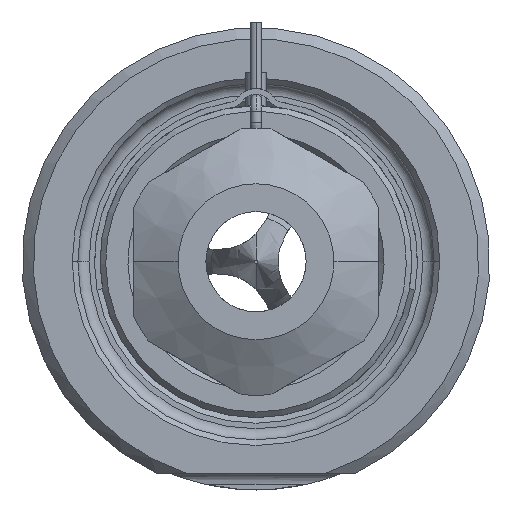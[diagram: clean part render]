
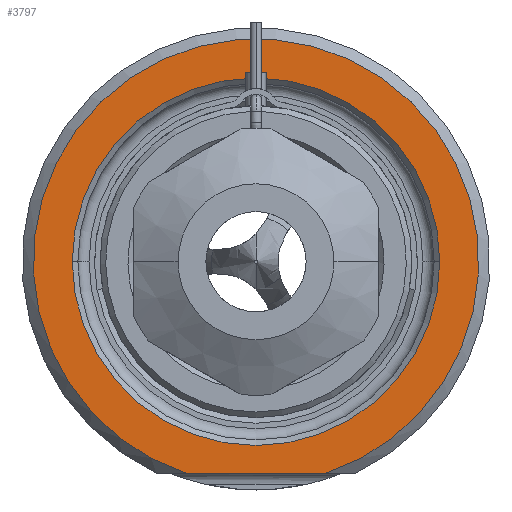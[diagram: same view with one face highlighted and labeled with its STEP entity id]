
A CAD part, front view. The second image highlights one B-rep face of the part: STEP entity #3797.
In plain terms, the highlighted planar face has unit normal (0, -1, 0).
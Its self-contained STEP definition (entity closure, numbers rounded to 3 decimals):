
#1=DIRECTION('',(1.,0.,0.));
#2=VECTOR('',#1,12.49);
#3=CARTESIAN_POINT('',(-6.245,0.,-19.));
#4=LINE('',#3,#2);
#5=CARTESIAN_POINT('',(0.,0.,0.));
#6=DIRECTION('',(0.,1.,0.));
#7=DIRECTION('',(-1.,0.,0.));
#8=AXIS2_PLACEMENT_3D('',#5,#6,#7);
#10=CARTESIAN_POINT('',(0.,0.,0.));
#11=DIRECTION('',(0.,1.,0.));
#12=DIRECTION('',(1.,0.,0.));
#13=AXIS2_PLACEMENT_3D('',#10,#11,#12);
#119=CARTESIAN_POINT('',(0.,0.,0.));
#120=DIRECTION('',(0.,-1.,0.));
#121=DIRECTION('',(0.312,0.,-0.95));
#122=AXIS2_PLACEMENT_3D('',#119,#120,#121);
#3182=CARTESIAN_POINT('',(-16.5,0.,0.));
#3183=CARTESIAN_POINT('',(16.5,0.,0.));
#3184=VERTEX_POINT('',#3182);
#3185=VERTEX_POINT('',#3183);
#3222=CARTESIAN_POINT('',(-6.245,0.,-19.));
#3223=CARTESIAN_POINT('',(6.245,0.,-19.));
#3224=VERTEX_POINT('',#3222);
#3225=VERTEX_POINT('',#3223);
#3780=CARTESIAN_POINT('',(0.,0.,0.));
#3781=DIRECTION('',(0.,-1.,0.));
#3782=DIRECTION('',(1.,0.,0.));
#3783=AXIS2_PLACEMENT_3D('',#3780,#3781,#3782);
#3784=PLANE('',#3783);
#3786=ORIENTED_EDGE('',*,*,#3785,.F.);
#3788=ORIENTED_EDGE('',*,*,#3787,.F.);
#3789=EDGE_LOOP('',(#3786,#3788));
#3790=FACE_OUTER_BOUND('',#3789,.F.);
#3792=ORIENTED_EDGE('',*,*,#3791,.F.);
#3794=ORIENTED_EDGE('',*,*,#3793,.F.);
#3795=EDGE_LOOP('',(#3792,#3794));
#3796=FACE_BOUND('',#3795,.F.);
#3797=ADVANCED_FACE('',(#3790,#3796),#3784,.T.);
#9=CIRCLE('',#8,16.5);
#14=CIRCLE('',#13,16.5);
#123=CIRCLE('',#122,20.);
#3785=EDGE_CURVE('',#3224,#3225,#4,.T.);
#3787=EDGE_CURVE('',#3225,#3224,#123,.T.);
#3791=EDGE_CURVE('',#3184,#3185,#9,.T.);
#3793=EDGE_CURVE('',#3185,#3184,#14,.T.);
